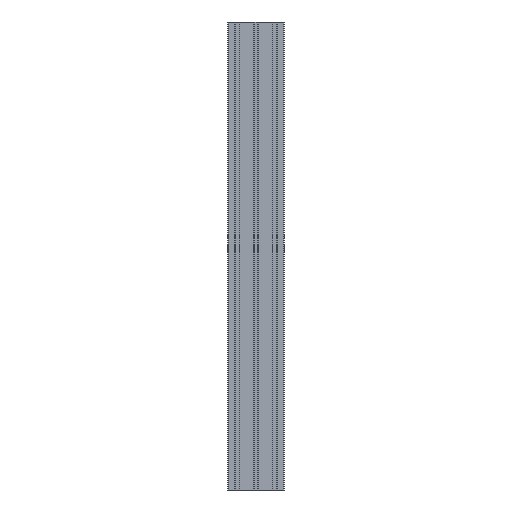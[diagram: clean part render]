
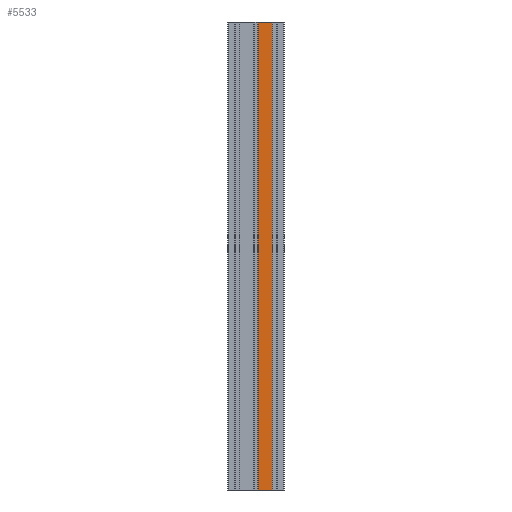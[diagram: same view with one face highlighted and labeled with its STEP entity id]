
A CAD part, front view. The second image highlights one B-rep face of the part: STEP entity #5533.
In plain terms, the highlighted planar face has unit normal (0, -1, 0).
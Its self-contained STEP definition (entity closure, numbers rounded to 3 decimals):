
#551=PLANE('',#5854);
#727=FACE_OUTER_BOUND('',#981,.T.);
#981=EDGE_LOOP('',(#4044,#4045,#4046,#4047));
#1287=LINE('',#8240,#1843);
#1289=LINE('',#8244,#1845);
#1290=LINE('',#8246,#1846);
#1291=LINE('',#8247,#1847);
#1843=VECTOR('',#6574,10.);
#1845=VECTOR('',#6578,10.);
#1846=VECTOR('',#6579,10.);
#1847=VECTOR('',#6580,10.);
#2704=VERTEX_POINT('',#8237);
#2705=VERTEX_POINT('',#8239);
#2706=VERTEX_POINT('',#8243);
#2707=VERTEX_POINT('',#8245);
#3247=EDGE_CURVE('',#2704,#2705,#1287,.T.);
#3249=EDGE_CURVE('',#2704,#2706,#1289,.T.);
#3250=EDGE_CURVE('',#2706,#2707,#1290,.T.);
#3251=EDGE_CURVE('',#2707,#2705,#1291,.T.);
#4044=ORIENTED_EDGE('',*,*,#3247,.F.);
#4045=ORIENTED_EDGE('',*,*,#3249,.T.);
#4046=ORIENTED_EDGE('',*,*,#3250,.T.);
#4047=ORIENTED_EDGE('',*,*,#3251,.T.);
#5533=ADVANCED_FACE('',(#727),#551,.F.);
#5854=AXIS2_PLACEMENT_3D('',#8242,#6576,#6577);
#6574=DIRECTION('',(0.,0.,1.));
#6576=DIRECTION('center_axis',(0.,1.,0.));
#6577=DIRECTION('ref_axis',(-1.,0.,0.));
#6578=DIRECTION('',(1.,0.,0.));
#6579=DIRECTION('',(0.,0.,1.));
#6580=DIRECTION('',(-1.,0.,0.));
#8237=CARTESIAN_POINT('',(4.9,-20.,-500.));
#8239=CARTESIAN_POINT('',(4.9,-20.,500.));
#8240=CARTESIAN_POINT('',(4.9,-20.,0.));
#8242=CARTESIAN_POINT('Origin',(35.1,-20.,0.));
#8243=CARTESIAN_POINT('',(35.1,-20.,-500.));
#8244=CARTESIAN_POINT('',(35.1,-20.,-500.));
#8245=CARTESIAN_POINT('',(35.1,-20.,500.));
#8246=CARTESIAN_POINT('',(35.1,-20.,0.));
#8247=CARTESIAN_POINT('',(35.1,-20.,500.));
